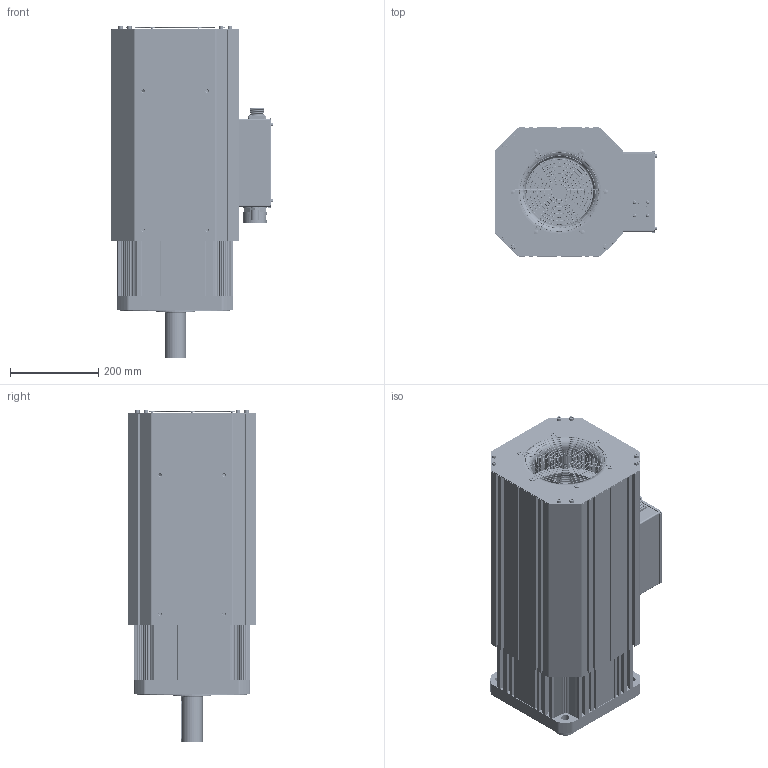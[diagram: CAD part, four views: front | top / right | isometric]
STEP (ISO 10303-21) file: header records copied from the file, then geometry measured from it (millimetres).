
FILE_DESCRIPTION((''),'2;1');
FILE_NAME('K187F18C25P_ASM','2019-12-11T',('Administrator'),(''),'PRO/ENGINEER BY PARAMETRIC TECHNOLOGY CORPORATION, 2010280','PRO/ENGINEER BY PARAMETRIC TECHNOLOGY CORPORATION, 2010280','');
FILE_SCHEMA(('CONFIG_CONTROL_DESIGN'));
Products named in the file (72): JK_K187_10200-99102; DZTX_K187_10000-07008; DZXB_K187_80100-08009; DZZZ_K187_80200-06007_ASM; ZZ_K187_12400-18019; PHH_250_20100-09010; ZZDP_38L_10100-01002; CG_37_250_00100-04005; CGKT_250_11800-01002; ZZDPZZ_250_ASM; JGH_250_12000-01002; ZC_Q_250_30400-02003; ZC_H_250_30400-00001; ZCZDQ_250_11200-01002; QDG_250_10600-02003; ZCYG_250_10900-01002; O_240_50000-04005; M8X45; ZZZJ_K187_80500-06007_ASM; M10X40; HDG_250_21200-01002; O_220_50000-05006; XB-2_J52XFW975J_40700-00001; XB-1_J52XFW975J_40700-00001; XBYB_J52_11700-00001; XBYM_J52_11000-00001; M4X10; M5X35; HGMB_250_21600-02003; CDLD_5X10; FJ_250_40000-01002; FJGDB_250_11400-02003; CTLD_4X8; FJZJ_250_80700-01002_ASM; FDB_L_K187_12900-76077; FDB_Y_K187_12900-76077; FDB_K187_12900-76077; FDB_0_K187_12900-76077; FDB_K187_12900-76077_ASM; M6X20_NO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
Assembly tree (181 placements, depth 4):
  K187F18C25P_ASM
    DZZZ_K187_80200-06007_ASM
      JK_K187_10200-99102
      DZTX_K187_10000-07008
      DZXB_K187_80100-08009
    ZZZJ_K187_80500-06007_ASM
      ZZ_K187_12400-18019
      PHH_250_20100-09010  x2
      ZZDPZZ_250_ASM  x5
        ZZDP_38L_10100-01002
        CG_37_250_00100-04005
        CGKT_250_11800-01002
      JGH_250_12000-01002  x4
      ZC_Q_250_30400-02003
      ZC_H_250_30400-00001
      ZCZDQ_250_11200-01002
      QDG_250_10600-02003
      ZCYG_250_10900-01002
      O_240_50000-04005
      M8X45  x4
    M10X40  x16
    HDG_250_21200-01002
    O_240_50000-04005
    O_220_50000-05006
    XB-2_J52XFW975J_40700-00001
    XB-1_J52XFW975J_40700-00001
    XBYB_J52_11700-00001  x2
    XBYM_J52_11000-00001
    M4X10  x10
    M5X35
    HGMB_250_21600-02003
    CDLD_5X10  x6
    FJZJ_250_80700-01002_ASM
      FJ_250_40000-01002
      FJGDB_250_11400-02003
      CTLD_4X8  x4
    FDB_K187_12900-76077_ASM
      FDB_L_K187_12900-76077
      FDB_Y_K187_12900-76077
      FDB_K187_12900-76077  x3
      FDB_0_K187_12900-76077  x3
    M6X20_NO  x16
    FJFHBZJ_250_80800-01002_ASM
      FJFHB_250_11100-01002
      DFQ_250_30700-00001
      FHW_250_30500-01002
      PDQ_4_KB  x6
      MD_4X12  x6
    M6X10  x8
    YXHQ_250_20300-01002
    O_40_50000-11012  x2
    JXHZJ_250_81100-01003_ASM
      JXHT_250_41000-10011
      XJD_250_50800-12013
      JXHG_250_41000-00001
      MFD_YD28-15P
      HKXZ_YD28-15P_40100-00001
      DR_40400-05006
      JXDZ_100A_40200-10011_ASM
        JXDZ-1_100A_40200-10011
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Bounding box: 368.74 x 292.24 x 754 mm (x, y, z)
Volume: 22817694.1 mm3; surface area: 6912273.1 mm2
Topology: 227 solids, 273 shells, 10462 faces, 27019 edges, 17321 vertices
Faces by surface type: plane 4977, cylinder 3661, torus 761, cone 468, sphere 352, bspline 243
Entity records: 207467 total; most frequent: CARTESIAN_POINT 46853, DIRECTION 34362, ORIENTED_EDGE 33032, EDGE_CURVE 16622, AXIS2_PLACEMENT_3D 12363, VERTEX_POINT 10894, VECTOR 9636, LINE 9636
